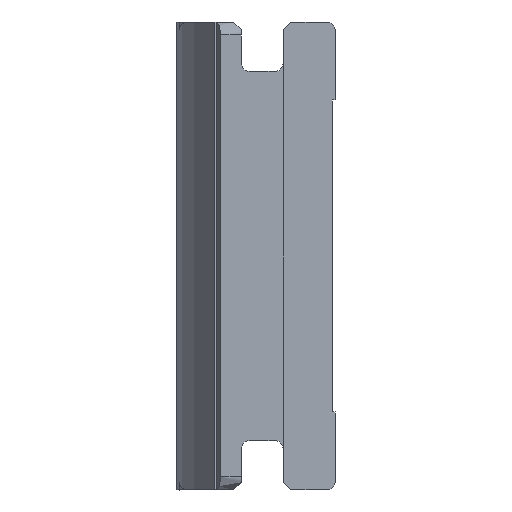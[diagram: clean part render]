
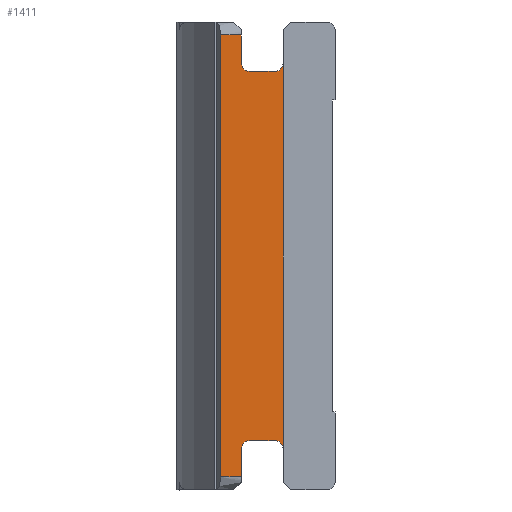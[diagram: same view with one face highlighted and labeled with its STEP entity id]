
A CAD part, left-side view. The second image highlights one B-rep face of the part: STEP entity #1411.
In plain terms, the highlighted planar face has unit normal (-1, 0, 0).
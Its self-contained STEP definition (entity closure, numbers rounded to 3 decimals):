
#2 = ORIENTED_EDGE ( 'NONE', *, *, #1082, .T. ) ;
#34 = FACE_OUTER_BOUND ( 'NONE', #576, .T. ) ;
#36 = EDGE_CURVE ( 'NONE', #179, #1028, #1617, .T. ) ;
#46 = CARTESIAN_POINT ( 'NONE',  ( 10., 3.2, 7.1 ) ) ;
#91 = VECTOR ( 'NONE', #1597, 1000. ) ;
#108 = VERTEX_POINT ( 'NONE', #1238 ) ;
#118 = CARTESIAN_POINT ( 'NONE',  ( 10., 1.9, 8.5 ) ) ;
#119 = CARTESIAN_POINT ( 'NONE',  ( 10., 3.2, 7.1 ) ) ;
#148 = DIRECTION ( 'NONE',  ( 0., 0., -1. ) ) ;
#171 = VERTEX_POINT ( 'NONE', #235 ) ;
#173 = LINE ( 'NONE', #1146, #465 ) ;
#179 = VERTEX_POINT ( 'NONE', #1393 ) ;
#190 = AXIS2_PLACEMENT_3D ( 'NONE', #879, #290, #148 ) ;
#214 = CARTESIAN_POINT ( 'NONE',  ( 10., 1.9, -7.4 ) ) ;
#228 = CIRCLE ( 'NONE', #1193, 0.3 ) ;
#232 = EDGE_CURVE ( 'NONE', #1396, #921, #953, .T. ) ;
#233 = CARTESIAN_POINT ( 'NONE',  ( 10., 3.5, 8.7 ) ) ;
#235 = CARTESIAN_POINT ( 'NONE',  ( 10., 3.5, 8.5 ) ) ;
#253 = VECTOR ( 'NONE', #1382, 1000. ) ;
#267 = DIRECTION ( 'NONE',  ( 0., -1., 0. ) ) ;
#279 = CIRCLE ( 'NONE', #190, 0.3 ) ;
#289 = EDGE_CURVE ( 'NONE', #1407, #484, #279, .T. ) ;
#290 = DIRECTION ( 'NONE',  ( -1., 0., 0. ) ) ;
#316 = DIRECTION ( 'NONE',  ( 0., 0., 1. ) ) ;
#341 = AXIS2_PLACEMENT_3D ( 'NONE', #1618, #474, #1183 ) ;
#368 = ORIENTED_EDGE ( 'NONE', *, *, #1641, .F. ) ;
#395 = LINE ( 'NONE', #119, #678 ) ;
#428 = EDGE_CURVE ( 'NONE', #921, #1407, #1558, .T. ) ;
#465 = VECTOR ( 'NONE', #752, 1000. ) ;
#471 = PLANE ( 'NONE',  #1067 ) ;
#474 = DIRECTION ( 'NONE',  ( -1., 0., 0. ) ) ;
#484 = VERTEX_POINT ( 'NONE', #707 ) ;
#489 = CARTESIAN_POINT ( 'NONE',  ( 10., 3.5, 7.4 ) ) ;
#504 = EDGE_CURVE ( 'NONE', #1778, #1396, #395, .T. ) ;
#541 = DIRECTION ( 'NONE',  ( 0., 0., -1. ) ) ;
#554 = VECTOR ( 'NONE', #837, 1000. ) ;
#576 = EDGE_LOOP ( 'NONE', ( #995, #816, #685, #2, #1184, #1780, #809, #1118, #979, #1179, #1339, #368 ) ) ;
#581 = CARTESIAN_POINT ( 'NONE',  ( 10., 3.2, 7.4 ) ) ;
#641 = CARTESIAN_POINT ( 'NONE',  ( 10., 4.3, -29.536 ) ) ;
#678 = VECTOR ( 'NONE', #267, 1000. ) ;
#685 = ORIENTED_EDGE ( 'NONE', *, *, #1684, .F. ) ;
#707 = CARTESIAN_POINT ( 'NONE',  ( 10., 2.2, -7.1 ) ) ;
#746 = DIRECTION ( 'NONE',  ( 0., 1., 0. ) ) ;
#752 = DIRECTION ( 'NONE',  ( 0., -1., 0. ) ) ;
#779 = VERTEX_POINT ( 'NONE', #489 ) ;
#809 = ORIENTED_EDGE ( 'NONE', *, *, #1124, .F. ) ;
#816 = ORIENTED_EDGE ( 'NONE', *, *, #1555, .T. ) ;
#825 = EDGE_CURVE ( 'NONE', #1426, #179, #228, .T. ) ;
#827 = EDGE_CURVE ( 'NONE', #171, #779, #1841, .T. ) ;
#837 = DIRECTION ( 'NONE',  ( 0., 0., -1. ) ) ;
#860 = CARTESIAN_POINT ( 'NONE',  ( 10., 4.3, 8.5 ) ) ;
#873 = LINE ( 'NONE', #118, #1545 ) ;
#879 = CARTESIAN_POINT ( 'NONE',  ( 10., 2.2, -7.4 ) ) ;
#921 = VERTEX_POINT ( 'NONE', #1532 ) ;
#944 = VECTOR ( 'NONE', #316, 1000. ) ;
#953 = CIRCLE ( 'NONE', #341, 0.3 ) ;
#974 = CARTESIAN_POINT ( 'NONE',  ( 10., 3.2, -7.1 ) ) ;
#979 = ORIENTED_EDGE ( 'NONE', *, *, #428, .F. ) ;
#995 = ORIENTED_EDGE ( 'NONE', *, *, #827, .F. ) ;
#1028 = VERTEX_POINT ( 'NONE', #1592 ) ;
#1066 = CARTESIAN_POINT ( 'NONE',  ( 10., 3.5, -8.7 ) ) ;
#1067 = AXIS2_PLACEMENT_3D ( 'NONE', #1551, #1383, #541 ) ;
#1082 = EDGE_CURVE ( 'NONE', #108, #1028, #173, .T. ) ;
#1112 = CARTESIAN_POINT ( 'NONE',  ( 10., 3.2, -7.4 ) ) ;
#1118 = ORIENTED_EDGE ( 'NONE', *, *, #289, .F. ) ;
#1124 = EDGE_CURVE ( 'NONE', #484, #1426, #1284, .T. ) ;
#1146 = CARTESIAN_POINT ( 'NONE',  ( 10., 1.9, -8.5 ) ) ;
#1158 = DIRECTION ( 'NONE',  ( -1., 0., 0. ) ) ;
#1166 = DIRECTION ( 'NONE',  ( 0., 1., 0. ) ) ;
#1179 = ORIENTED_EDGE ( 'NONE', *, *, #232, .F. ) ;
#1183 = DIRECTION ( 'NONE',  ( 0., 0., -1. ) ) ;
#1184 = ORIENTED_EDGE ( 'NONE', *, *, #36, .F. ) ;
#1193 = AXIS2_PLACEMENT_3D ( 'NONE', #1112, #1539, #1690 ) ;
#1215 = VERTEX_POINT ( 'NONE', #860 ) ;
#1216 = CIRCLE ( 'NONE', #1363, 0.3 ) ;
#1238 = CARTESIAN_POINT ( 'NONE',  ( 10., 4.3, -8.5 ) ) ;
#1284 = LINE ( 'NONE', #1711, #1524 ) ;
#1339 = ORIENTED_EDGE ( 'NONE', *, *, #504, .F. ) ;
#1363 = AXIS2_PLACEMENT_3D ( 'NONE', #581, #1158, #1731 ) ;
#1382 = DIRECTION ( 'NONE',  ( 0., 0., -1. ) ) ;
#1383 = DIRECTION ( 'NONE',  ( 1., 0., 0. ) ) ;
#1393 = CARTESIAN_POINT ( 'NONE',  ( 10., 3.5, -7.4 ) ) ;
#1396 = VERTEX_POINT ( 'NONE', #1799 ) ;
#1407 = VERTEX_POINT ( 'NONE', #214 ) ;
#1411 = ADVANCED_FACE ( 'NONE', ( #34 ), #471, .F. ) ;
#1421 = CARTESIAN_POINT ( 'NONE',  ( 10., 1.9, -29.536 ) ) ;
#1426 = VERTEX_POINT ( 'NONE', #974 ) ;
#1467 = LINE ( 'NONE', #641, #944 ) ;
#1524 = VECTOR ( 'NONE', #746, 1000. ) ;
#1532 = CARTESIAN_POINT ( 'NONE',  ( 10., 1.9, 7.4 ) ) ;
#1539 = DIRECTION ( 'NONE',  ( -1., 0., 0. ) ) ;
#1545 = VECTOR ( 'NONE', #1166, 1000. ) ;
#1551 = CARTESIAN_POINT ( 'NONE',  ( 10., 1.9, -29.536 ) ) ;
#1555 = EDGE_CURVE ( 'NONE', #171, #1215, #873, .T. ) ;
#1558 = LINE ( 'NONE', #1421, #554 ) ;
#1592 = CARTESIAN_POINT ( 'NONE',  ( 10., 3.5, -8.5 ) ) ;
#1597 = DIRECTION ( 'NONE',  ( 0., 0., -1. ) ) ;
#1617 = LINE ( 'NONE', #1066, #91 ) ;
#1618 = CARTESIAN_POINT ( 'NONE',  ( 10., 2.2, 7.4 ) ) ;
#1641 = EDGE_CURVE ( 'NONE', #779, #1778, #1216, .T. ) ;
#1684 = EDGE_CURVE ( 'NONE', #108, #1215, #1467, .T. ) ;
#1690 = DIRECTION ( 'NONE',  ( 0., 0., -1. ) ) ;
#1711 = CARTESIAN_POINT ( 'NONE',  ( 10., 3.2, -7.1 ) ) ;
#1731 = DIRECTION ( 'NONE',  ( 0., 0., -1. ) ) ;
#1778 = VERTEX_POINT ( 'NONE', #46 ) ;
#1780 = ORIENTED_EDGE ( 'NONE', *, *, #825, .F. ) ;
#1799 = CARTESIAN_POINT ( 'NONE',  ( 10., 2.2, 7.1 ) ) ;
#1841 = LINE ( 'NONE', #233, #253 ) ;
